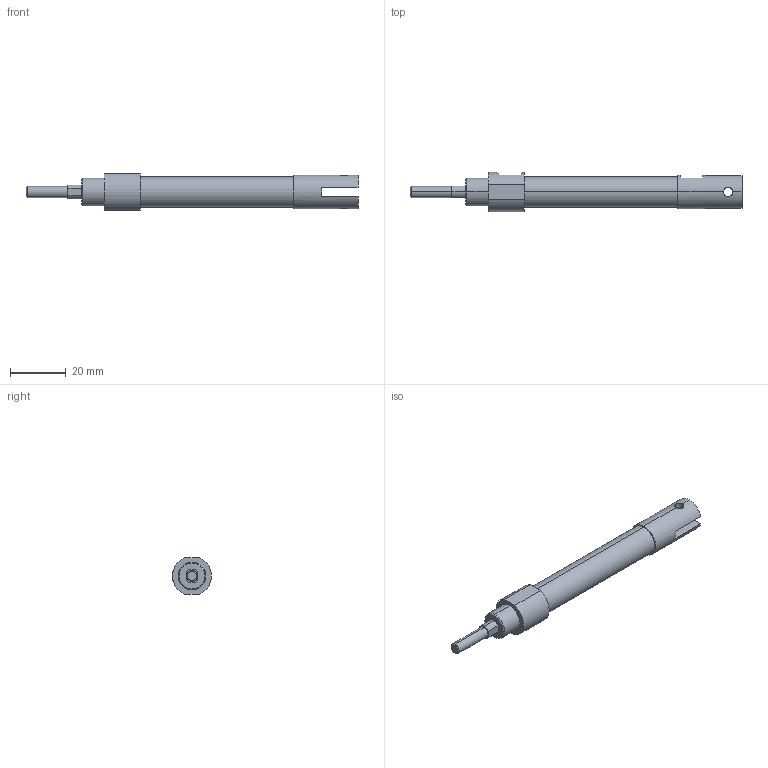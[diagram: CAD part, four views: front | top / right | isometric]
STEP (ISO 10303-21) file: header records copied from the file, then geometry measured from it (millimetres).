
FILE_DESCRIPTION (( 'STEP AP203' ), '1' );
FILE_NAME ('ZGU2-10-30-W.STEP', '2016-03-31T00:52:51', ( '' ), ( '' ), 'SwSTEP 2.0', 'SolidWorks 2014', '' );
FILE_SCHEMA (( 'CONFIG_CONTROL_DESIGN' ));
Length unit declared in the file: millimetre
Products named in the file (1): ZGU2-10-30-W
Bounding box: 119 x 14 x 13 mm (x, y, z)
Volume: 9824.6 mm3; surface area: 4659.7 mm2
Topology: 1 solids, 1 shells, 50 faces, 117 edges, 72 vertices
Faces by surface type: cylinder 21, plane 21, cone 8
Entity records: 1590 total; most frequent: CARTESIAN_POINT 350, DIRECTION 257, ORIENTED_EDGE 226, EDGE_CURVE 113, AXIS2_PLACEMENT_3D 99, VERTEX_POINT 72, EDGE_LOOP 61, LINE 59
